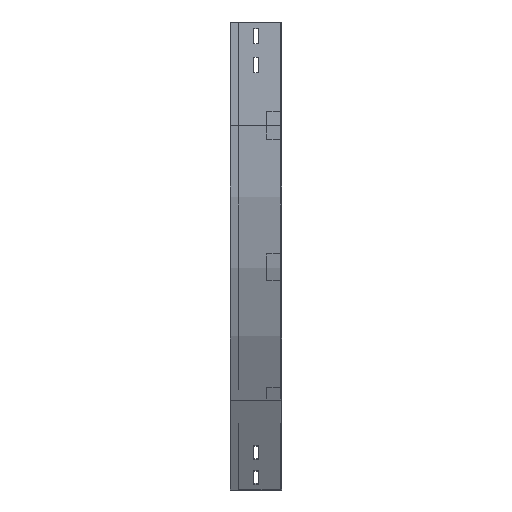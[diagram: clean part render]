
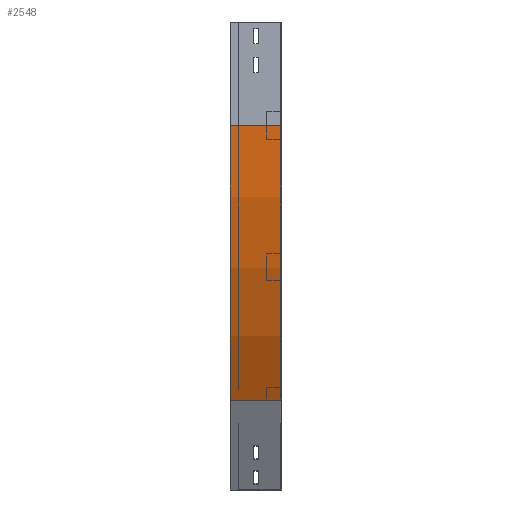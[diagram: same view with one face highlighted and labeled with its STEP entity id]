
A CAD part, left-side view. The second image highlights one B-rep face of the part: STEP entity #2548.
In plain terms, the highlighted cylindrical face has radius 800 mm (diameter 1600 mm), a partial arc.
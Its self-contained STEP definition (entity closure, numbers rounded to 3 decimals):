
#61 = CARTESIAN_POINT ( 'NONE',  ( 107.18, 0., -550. ) ) ;
#118 = CARTESIAN_POINT ( 'NONE',  ( 0., 75., -150. ) ) ;
#296 = VECTOR ( 'NONE', #2193, 1000. ) ;
#743 = DIRECTION ( 'NONE',  ( 0., -1., 0. ) ) ;
#822 = AXIS2_PLACEMENT_3D ( 'NONE', #3665, #743, #1917 ) ;
#839 = EDGE_CURVE ( 'NONE', #3727, #3523, #3049, .T. ) ;
#921 = VERTEX_POINT ( 'NONE', #118 ) ;
#922 = ORIENTED_EDGE ( 'NONE', *, *, #839, .T. ) ;
#1113 = DIRECTION ( 'NONE',  ( -1., 0., 0. ) ) ;
#1177 = CARTESIAN_POINT ( 'NONE',  ( 800., 0., -150. ) ) ;
#1241 = LINE ( 'NONE', #3024, #1838 ) ;
#1296 = EDGE_CURVE ( 'NONE', #921, #2682, #1241, .T. ) ;
#1320 = CARTESIAN_POINT ( 'NONE',  ( 0., 0., -150. ) ) ;
#1327 = CARTESIAN_POINT ( 'NONE',  ( 107.18, 0., -550. ) ) ;
#1516 = EDGE_LOOP ( 'NONE', ( #2645, #2485, #3449, #922 ) ) ;
#1818 = AXIS2_PLACEMENT_3D ( 'NONE', #3620, #2112, #2707 ) ;
#1838 = VECTOR ( 'NONE', #1871, 1000. ) ;
#1871 = DIRECTION ( 'NONE',  ( 0., -1., 0. ) ) ;
#1917 = DIRECTION ( 'NONE',  ( -1., 0., 0. ) ) ;
#2112 = DIRECTION ( 'NONE',  ( 0., -1., 0. ) ) ;
#2170 = CYLINDRICAL_SURFACE ( 'NONE', #1818, 800. ) ;
#2193 = DIRECTION ( 'NONE',  ( 0., -1., 0. ) ) ;
#2485 = ORIENTED_EDGE ( 'NONE', *, *, #1296, .F. ) ;
#2548 = ADVANCED_FACE ( 'NONE', ( #3047 ), #2170, .T. ) ;
#2645 = ORIENTED_EDGE ( 'NONE', *, *, #2908, .F. ) ;
#2672 = CARTESIAN_POINT ( 'NONE',  ( 107.18, 75., -550. ) ) ;
#2682 = VERTEX_POINT ( 'NONE', #1320 ) ;
#2707 = DIRECTION ( 'NONE',  ( 0., 0., -1. ) ) ;
#2908 = EDGE_CURVE ( 'NONE', #2682, #3523, #3312, .T. ) ;
#2978 = DIRECTION ( 'NONE',  ( 0., -1., 0. ) ) ;
#3024 = CARTESIAN_POINT ( 'NONE',  ( 0., 0., -150. ) ) ;
#3047 = FACE_OUTER_BOUND ( 'NONE', #1516, .T. ) ;
#3049 = LINE ( 'NONE', #61, #296 ) ;
#3312 = CIRCLE ( 'NONE', #3428, 800. ) ;
#3428 = AXIS2_PLACEMENT_3D ( 'NONE', #1177, #2978, #1113 ) ;
#3449 = ORIENTED_EDGE ( 'NONE', *, *, #3529, .T. ) ;
#3493 = CIRCLE ( 'NONE', #822, 800. ) ;
#3523 = VERTEX_POINT ( 'NONE', #1327 ) ;
#3529 = EDGE_CURVE ( 'NONE', #921, #3727, #3493, .T. ) ;
#3620 = CARTESIAN_POINT ( 'NONE',  ( 800., 0., -150. ) ) ;
#3665 = CARTESIAN_POINT ( 'NONE',  ( 800., 75., -150. ) ) ;
#3727 = VERTEX_POINT ( 'NONE', #2672 ) ;
